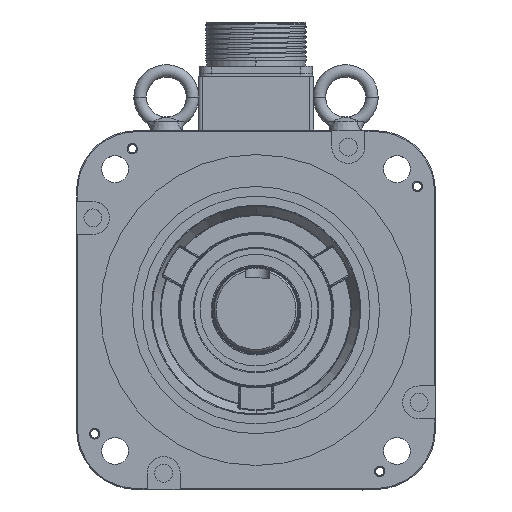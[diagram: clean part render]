
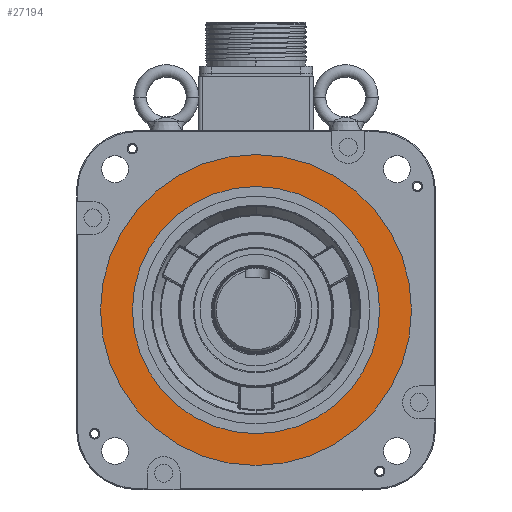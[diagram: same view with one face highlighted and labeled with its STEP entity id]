
A CAD part, top view. The second image highlights one B-rep face of the part: STEP entity #27194.
In plain terms, the highlighted planar face has unit normal (0, 0, 1).
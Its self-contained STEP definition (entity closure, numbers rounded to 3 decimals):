
#238=FACE_BOUND('',#7811,.T.);
#442=PLANE('',#31379);
#6746=FACE_OUTER_BOUND('',#7810,.T.);
#7810=EDGE_LOOP('',(#23488));
#7811=EDGE_LOOP('',(#23489));
#9442=CIRCLE('',#31380,78.);
#9443=CIRCLE('',#31381,62.);
#13330=VERTEX_POINT('',#61797);
#13331=VERTEX_POINT('',#61799);
#18405=EDGE_CURVE('',#13330,#13330,#9442,.T.);
#18406=EDGE_CURVE('',#13331,#13331,#9443,.T.);
#23488=ORIENTED_EDGE('',*,*,#18405,.T.);
#23489=ORIENTED_EDGE('',*,*,#18406,.T.);
#27194=ADVANCED_FACE('',(#6746,#238),#442,.T.);
#31379=AXIS2_PLACEMENT_3D('',#61796,#37199,#37200);
#31380=AXIS2_PLACEMENT_3D('',#61798,#37201,#37202);
#31381=AXIS2_PLACEMENT_3D('',#61800,#37203,#37204);
#37199=DIRECTION('center_axis',(0.,0.,1.));
#37200=DIRECTION('ref_axis',(1.,0.,0.));
#37201=DIRECTION('center_axis',(0.,0.,1.));
#37202=DIRECTION('ref_axis',(1.,0.,0.));
#37203=DIRECTION('center_axis',(0.,0.,-1.));
#37204=DIRECTION('ref_axis',(1.,0.,0.));
#61796=CARTESIAN_POINT('Origin',(36.315,140.247,90.807));
#61797=CARTESIAN_POINT('',(-41.685,219.183,90.807));
#61798=CARTESIAN_POINT('Origin',(36.315,219.183,90.807));
#61799=CARTESIAN_POINT('',(-25.685,219.183,90.807));
#61800=CARTESIAN_POINT('Origin',(36.315,219.183,90.807));
